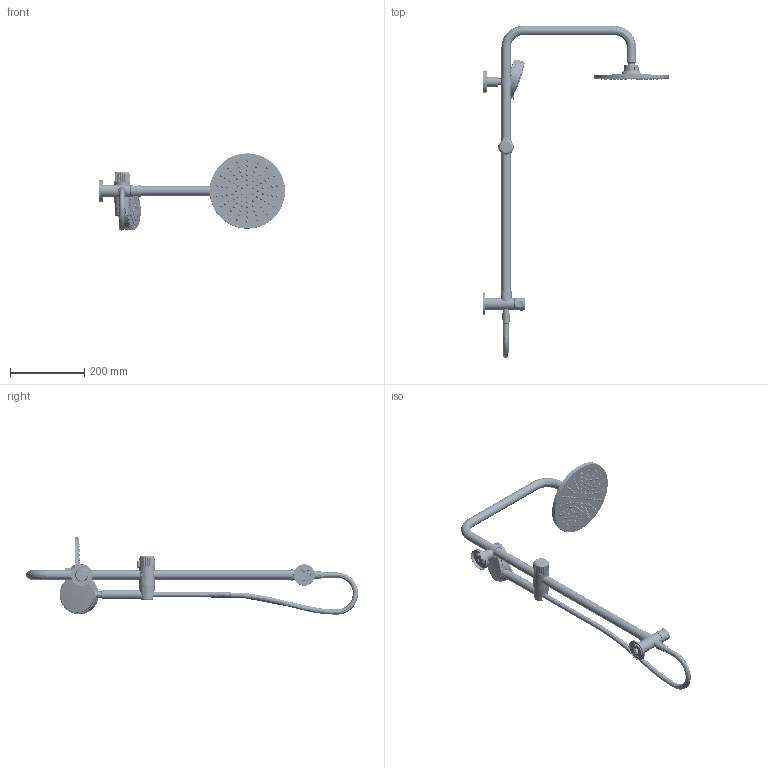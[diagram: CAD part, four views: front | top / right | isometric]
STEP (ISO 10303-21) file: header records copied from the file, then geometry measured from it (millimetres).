
FILE_DESCRIPTION (( 'STEP AP214' ), '1' );
FILE_NAME ('Hi-RDN-976A850-MB.STEP', '2021-07-22T07:13:18', ( '' ), ( '' ), 'SwSTEP 2.0', 'SolidWorks 2020', '' );
FILE_SCHEMA (( 'AUTOMOTIVE_DESIGN' ));
Length unit declared in the file: millimetre
Products named in the file (84): YWJD_923_2; GJ07_2; TTH10X0D7_1; 850-D_1; 976A_MJDZJ_923_ASM_2; T4018-2-FXL_2; 3_4JD_2; 203A-NSQ_923_2; 850-SB_ASM_1; CV14_2; H-CJT; GJ04_2; BD25-LTZHF_ASM_2; 306TA_1; 9A061; 976A_SB_923_2; D400HL_WGJT_2; GJ06_2; 150SC_923_ASM_2; D400HL-2_2; 803A_QS_923_ASM_2; 223HUA; BD25-GJ07_2; M5_LS_2; BD25_ZTJTX_2; Hi-850-S; BD25-ZT_2; 850-MB_1; D400HL-4_ASM_2; 850-FCY_1; 850-M1_1; GJ05_2; 976A_SBHJZJ_923_ASM_2; 850_ASM_1; 976A_JD_923_2; D400HL_WG_2; JQ01_1; 628-WY_1; D400HL-1_2; HOSE-END-INLET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
Assembly tree (188 placements, depth 5):
  Hi-RDN-976A850-MB
    BD25-LTZHF_ASM_2
      BD25-ZTHJFJT_ASM_2
        BD25-ZT_2
        BD25ZTHJZJ_2
      FS_2
      BD25-BS_2
      M5_LS_2
      T4018-2-FXL_2
      BD25-ZTJTS_2
      BD25_ZTJTX_2
      BD25-DZZJ_ASM_2
        GJ0001__2
        BD25-GJ07_2
      CV14_2
        CV14_4
        CV14_5
    D400HL_WG_ASM_2
      D400HL_WG_2
      D400HL_WGJT_2
      JT_2
    T11_2
    Q25_2
    YWJD_923_2  x3
    150SC_923_ASM_2
      150SC_RG_923_2
      990A_ZQ01_923_2
    813SBF_923_2
    HOSE-END-INLET
    3_4JD_2
    303MFJQ3_173_131_21_2
    D400HL-4_ASM_2
      D400HL-1_2
      D400HL-2_2
      203A_2  x2
    L-DZZJ_ASM_2
      GJ04_2
      GJ05_2
      GJ06_2
      GJ07_2
    976A_923_ASM_2
      976A_SBHJZJ_923_ASM_2
        976A_MJDZJ_923_ASM_2
          976A_MB_923_2
          976A_JD_923_2  x90
        976A_SB_923_2
      990A_QSG_923_2
      803A-QSFHD_923_2
      803A_QS_923_ASM_2
        803A_QS_923_2
        803A_QTLS__923_2
      203A-NSQ_923_2
    JYF_ASM_2
      JYF01_2
      JYF02_2
      JQ_2
    850_ASM_1
      850-SB_ASM_1
        SB_1
        628-WY_1
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Bounding box: 501.89 x 895.68 x 208.52 mm (x, y, z)
Volume: 649109.6 mm3; surface area: 685700.9 mm2
Topology: 164 solids, 173 shells, 8155 faces, 19629 edges, 12379 vertices
Faces by surface type: cylinder 2933, bspline 1971, plane 1857, cone 1364, torus 27, sphere 3
Entity records: 280423 total; most frequent: CARTESIAN_POINT 146411, ORIENTED_EDGE 28346, DIRECTION 25915, EDGE_CURVE 14216, AXIS2_PLACEMENT_3D 10614, VERTEX_POINT 9039, EDGE_LOOP 6591, CIRCLE 5759
